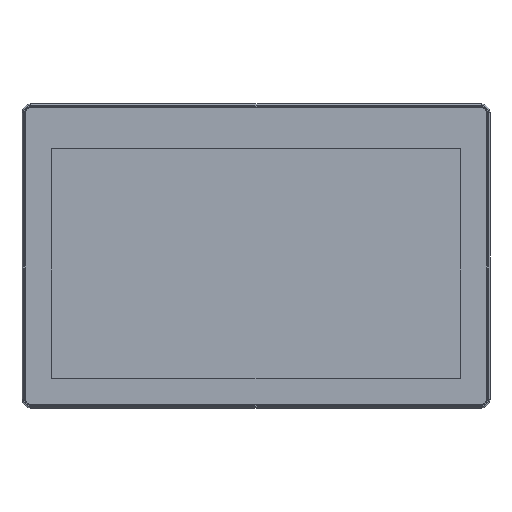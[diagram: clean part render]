
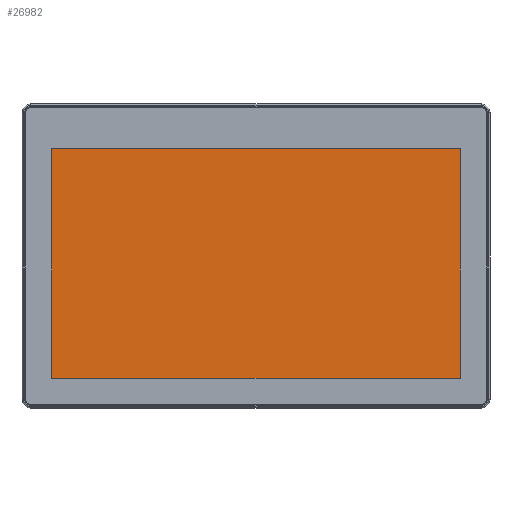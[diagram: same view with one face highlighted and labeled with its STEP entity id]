
A CAD part, top view. The second image highlights one B-rep face of the part: STEP entity #26982.
In plain terms, the highlighted planar face has unit normal (0, 0, 1).
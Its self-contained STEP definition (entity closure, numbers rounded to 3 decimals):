
#8646=DIRECTION('',(0.,1.,0.));
#8647=VECTOR('',#8646,193.59);
#8648=CARTESIAN_POINT('',(-172.08,-103.095,4.9));
#8649=LINE('',#8648,#8647);
#8650=DIRECTION('',(1.,0.,0.));
#8651=VECTOR('',#8650,344.16);
#8652=CARTESIAN_POINT('',(-172.08,90.495,4.9));
#8653=LINE('',#8652,#8651);
#8654=DIRECTION('',(0.,-1.,0.));
#8655=VECTOR('',#8654,193.59);
#8656=CARTESIAN_POINT('',(172.08,90.495,4.9));
#8657=LINE('',#8656,#8655);
#8658=DIRECTION('',(-1.,0.,0.));
#8659=VECTOR('',#8658,344.16);
#8660=CARTESIAN_POINT('',(172.08,-103.095,4.9));
#8661=LINE('',#8660,#8659);
#13902=CARTESIAN_POINT('',(-172.08,-103.095,4.9));
#13903=CARTESIAN_POINT('',(-172.08,90.495,4.9));
#13904=VERTEX_POINT('',#13902);
#13905=VERTEX_POINT('',#13903);
#13906=CARTESIAN_POINT('',(172.08,90.495,4.9));
#13907=VERTEX_POINT('',#13906);
#13908=CARTESIAN_POINT('',(172.08,-103.095,4.9));
#13909=VERTEX_POINT('',#13908);
#26968=CARTESIAN_POINT('',(0.,-6.3,4.9));
#26969=DIRECTION('',(0.,0.,1.));
#26970=DIRECTION('',(1.,0.,0.));
#26971=AXIS2_PLACEMENT_3D('',#26968,#26969,#26970);
#26972=PLANE('',#26971);
#26973=ORIENTED_EDGE('',*,*,#26958,.T.);
#26975=ORIENTED_EDGE('',*,*,#26974,.T.);
#26977=ORIENTED_EDGE('',*,*,#26976,.T.);
#26979=ORIENTED_EDGE('',*,*,#26978,.T.);
#26980=EDGE_LOOP('',(#26973,#26975,#26977,#26979));
#26981=FACE_OUTER_BOUND('',#26980,.F.);
#26982=ADVANCED_FACE('',(#26981),#26972,.T.);
#26958=EDGE_CURVE('',#13904,#13905,#8649,.T.);
#26974=EDGE_CURVE('',#13905,#13907,#8653,.T.);
#26976=EDGE_CURVE('',#13907,#13909,#8657,.T.);
#26978=EDGE_CURVE('',#13909,#13904,#8661,.T.);
